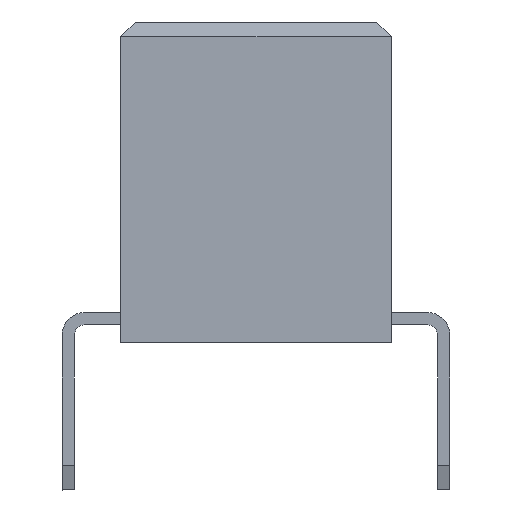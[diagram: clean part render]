
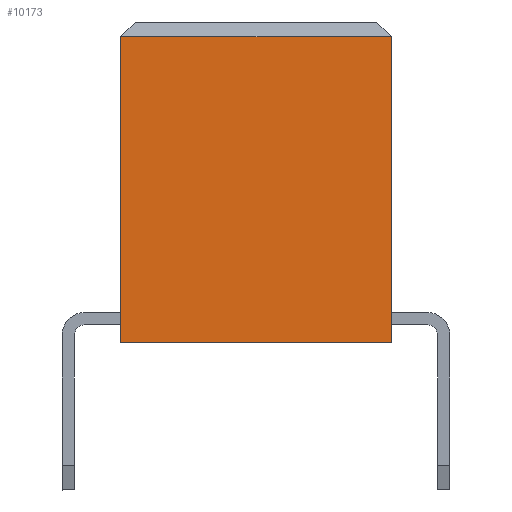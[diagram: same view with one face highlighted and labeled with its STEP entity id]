
A CAD part, left-side view. The second image highlights one B-rep face of the part: STEP entity #10173.
In plain terms, the highlighted planar face has unit normal (-1, 0, 0).
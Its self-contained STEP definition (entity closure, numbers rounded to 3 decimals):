
#176 = CARTESIAN_POINT ( 'NONE',  ( -19.28, -2.75, 6.5 ) ) ;
#561 = EDGE_LOOP ( 'NONE', ( #14612, #2495, #9683, #1218 ) ) ;
#1073 = EDGE_CURVE ( 'NONE', #13186, #6419, #5733, .T. ) ;
#1218 = ORIENTED_EDGE ( 'NONE', *, *, #4153, .F. ) ;
#1271 = DIRECTION ( 'NONE',  ( 0., 0., -1. ) ) ;
#1314 = LINE ( 'NONE', #176, #4827 ) ;
#2038 = FACE_OUTER_BOUND ( 'NONE', #561, .T. ) ;
#2495 = ORIENTED_EDGE ( 'NONE', *, *, #3812, .F. ) ;
#2795 = CARTESIAN_POINT ( 'NONE',  ( -19.28, 0., 0. ) ) ;
#3737 = VERTEX_POINT ( 'NONE', #7846 ) ;
#3812 = EDGE_CURVE ( 'NONE', #3737, #13186, #1314, .T. ) ;
#4153 = EDGE_CURVE ( 'NONE', #6419, #11648, #9553, .T. ) ;
#4827 = VECTOR ( 'NONE', #1271, 1000. ) ;
#5012 = VECTOR ( 'NONE', #10856, 1000. ) ;
#5408 = CARTESIAN_POINT ( 'NONE',  ( -19.28, 2.75, 0. ) ) ;
#5520 = EDGE_CURVE ( 'NONE', #11648, #3737, #13623, .T. ) ;
#5733 = LINE ( 'NONE', #8454, #5012 ) ;
#6282 = PLANE ( 'NONE',  #11289 ) ;
#6419 = VERTEX_POINT ( 'NONE', #5408 ) ;
#6492 = CARTESIAN_POINT ( 'NONE',  ( -19.28, 2.75, 6.2 ) ) ;
#7173 = DIRECTION ( 'NONE',  ( 0., -1., 0. ) ) ;
#7304 = CARTESIAN_POINT ( 'NONE',  ( -19.28, -2.75, 0. ) ) ;
#7357 = CARTESIAN_POINT ( 'NONE',  ( -19.28, 0., 6.2 ) ) ;
#7846 = CARTESIAN_POINT ( 'NONE',  ( -19.28, -2.75, 6.2 ) ) ;
#8454 = CARTESIAN_POINT ( 'NONE',  ( -19.28, 0., 0. ) ) ;
#8761 = DIRECTION ( 'NONE',  ( 0., 0., 1. ) ) ;
#9553 = LINE ( 'NONE', #12221, #10258 ) ;
#9683 = ORIENTED_EDGE ( 'NONE', *, *, #5520, .F. ) ;
#10173 = ADVANCED_FACE ( 'NONE', ( #2038 ), #6282, .F. ) ;
#10258 = VECTOR ( 'NONE', #8761, 1000. ) ;
#10420 = VECTOR ( 'NONE', #7173, 1000. ) ;
#10555 = DIRECTION ( 'NONE',  ( 1., 0., 0. ) ) ;
#10856 = DIRECTION ( 'NONE',  ( 0., 1., 0. ) ) ;
#11289 = AXIS2_PLACEMENT_3D ( 'NONE', #2795, #10555, #14084 ) ;
#11648 = VERTEX_POINT ( 'NONE', #6492 ) ;
#12221 = CARTESIAN_POINT ( 'NONE',  ( -19.28, 2.75, 0. ) ) ;
#13186 = VERTEX_POINT ( 'NONE', #7304 ) ;
#13623 = LINE ( 'NONE', #7357, #10420 ) ;
#14084 = DIRECTION ( 'NONE',  ( 0., 0., -1. ) ) ;
#14612 = ORIENTED_EDGE ( 'NONE', *, *, #1073, .F. ) ;
